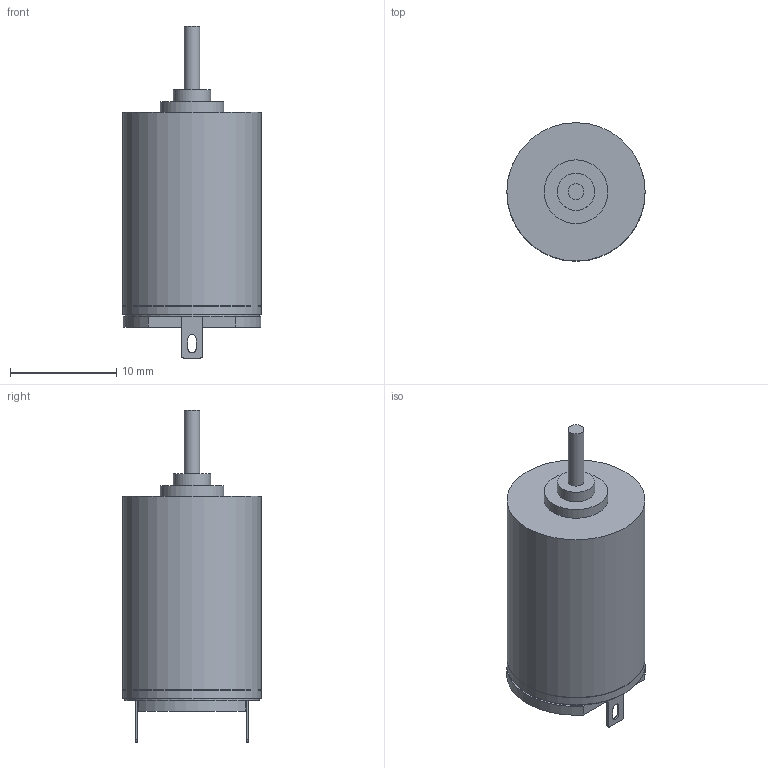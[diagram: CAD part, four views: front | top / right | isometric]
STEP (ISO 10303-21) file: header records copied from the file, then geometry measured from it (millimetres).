
FILE_DESCRIPTION(/* description */ (''),/* implementation_level */ '2;1');
FILE_NAME(/* name */ '1319TSR.stp',/* time_stamp */ '2011-12-21T00:29:28+06:00',/* author */ (''),/* organization */ (''),/* preprocessor_version */ 'ST-DEVELOPER v11',/* originating_system */ 'SIEMENS PLM Software NX 7.5',/* authorisation */ '');
FILE_SCHEMA (('CONFIG_CONTROL_DESIGN'));
Length unit declared in the file: millimetre
Products named in the file (1): 1319TSR
Bounding box: 13 x 13 x 31.2 mm (x, y, z)
Volume: 2715.4 mm3; surface area: 1191.1 mm2
Topology: 1 solids, 1 shells, 44 faces, 101 edges, 65 vertices
Faces by surface type: plane 26, cylinder 16, cone 2
Full cylindrical faces by diameter (mm): 1.5 x1, 3.5 x1, 6 x1, 12.6 x1, 13 x2
Entity records: 1290 total; most frequent: DIRECTION 218, CARTESIAN_POINT 201, ORIENTED_EDGE 184, EDGE_CURVE 92, AXIS2_PLACEMENT_3D 81, VERTEX_POINT 64, EDGE_LOOP 62, LINE 56
